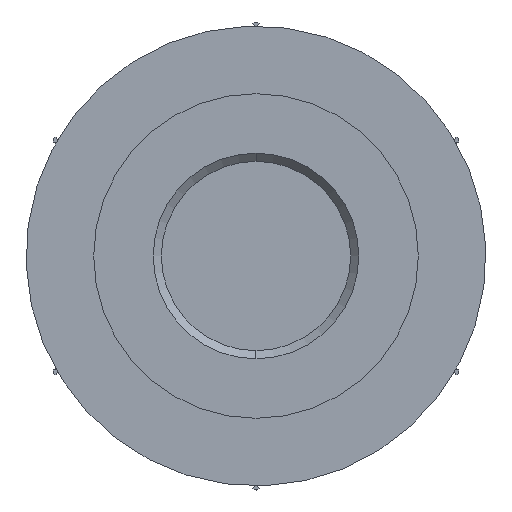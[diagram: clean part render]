
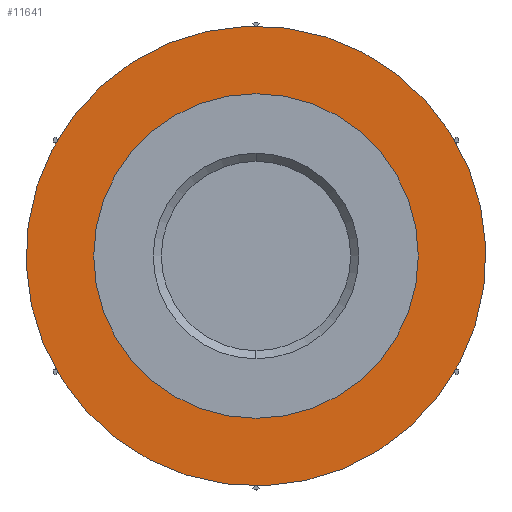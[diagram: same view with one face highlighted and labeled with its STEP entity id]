
A CAD part, front view. The second image highlights one B-rep face of the part: STEP entity #11641.
In plain terms, the highlighted planar face has unit normal (0, -1, 0).
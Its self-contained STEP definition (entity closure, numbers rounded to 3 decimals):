
#378 = CARTESIAN_POINT ( 'NONE',  ( 0., -1.2, 0. ) ) ;
#423 = CARTESIAN_POINT ( 'NONE',  ( 0., -1.2, 0. ) ) ;
#731 = DIRECTION ( 'NONE',  ( 0., 1., 0. ) ) ;
#741 = AXIS2_PLACEMENT_3D ( 'NONE', #423, #4500, #4488 ) ;
#1029 = VERTEX_POINT ( 'NONE', #5011 ) ;
#1205 = AXIS2_PLACEMENT_3D ( 'NONE', #8972, #731, #4707 ) ;
#1368 = EDGE_CURVE ( 'NONE', #1029, #2669, #12348, .T. ) ;
#1799 = EDGE_LOOP ( 'NONE', ( #3759, #5561 ) ) ;
#1952 = CARTESIAN_POINT ( 'NONE',  ( 0., -1.2, -6. ) ) ;
#2279 = ORIENTED_EDGE ( 'NONE', *, *, #1368, .F. ) ;
#2669 = VERTEX_POINT ( 'NONE', #3893 ) ;
#3211 = ORIENTED_EDGE ( 'NONE', *, *, #5558, .F. ) ;
#3759 = ORIENTED_EDGE ( 'NONE', *, *, #5231, .T. ) ;
#3891 = VERTEX_POINT ( 'NONE', #7868 ) ;
#3893 = CARTESIAN_POINT ( 'NONE',  ( 8.423, -1.2, -1.14 ) ) ;
#4078 = VERTEX_POINT ( 'NONE', #1952 ) ;
#4433 = AXIS2_PLACEMENT_3D ( 'NONE', #378, #4507, #10768 ) ;
#4488 = DIRECTION ( 'NONE',  ( 0.991, 0., -0.134 ) ) ;
#4500 = DIRECTION ( 'NONE',  ( 0., 1., 0. ) ) ;
#4507 = DIRECTION ( 'NONE',  ( 0., 1., 0. ) ) ;
#4707 = DIRECTION ( 'NONE',  ( 0., 0., 1. ) ) ;
#4849 = EDGE_CURVE ( 'NONE', #4078, #3891, #10835, .T. ) ;
#5011 = CARTESIAN_POINT ( 'NONE',  ( -8.423, -1.2, 1.14 ) ) ;
#5027 = DIRECTION ( 'NONE',  ( 0., 0., 1. ) ) ;
#5061 = FACE_BOUND ( 'NONE', #1799, .T. ) ;
#5231 = EDGE_CURVE ( 'NONE', #3891, #4078, #5695, .T. ) ;
#5411 = PLANE ( 'NONE',  #741 ) ;
#5558 = EDGE_CURVE ( 'NONE', #2669, #1029, #11437, .T. ) ;
#5561 = ORIENTED_EDGE ( 'NONE', *, *, #4849, .T. ) ;
#5695 = CIRCLE ( 'NONE', #1205, 6. ) ;
#7263 = DIRECTION ( 'NONE',  ( 0.991, 0., -0.134 ) ) ;
#7868 = CARTESIAN_POINT ( 'NONE',  ( 0., -1.2, 6. ) ) ;
#8489 = DIRECTION ( 'NONE',  ( 0., 1., 0. ) ) ;
#8834 = CARTESIAN_POINT ( 'NONE',  ( 0., -1.2, 0. ) ) ;
#8972 = CARTESIAN_POINT ( 'NONE',  ( 0., -1.2, 0. ) ) ;
#9096 = CARTESIAN_POINT ( 'NONE',  ( 0., -1.2, 0. ) ) ;
#9287 = DIRECTION ( 'NONE',  ( 0., 1., 0. ) ) ;
#9509 = EDGE_LOOP ( 'NONE', ( #2279, #3211 ) ) ;
#10768 = DIRECTION ( 'NONE',  ( 0.991, 0., -0.134 ) ) ;
#10835 = CIRCLE ( 'NONE', #13363, 6. ) ;
#11066 = AXIS2_PLACEMENT_3D ( 'NONE', #9096, #9287, #7263 ) ;
#11437 = CIRCLE ( 'NONE', #11066, 8.5 ) ;
#11641 = ADVANCED_FACE ( 'NONE', ( #5061, #12953 ), #5411, .F. ) ;
#12348 = CIRCLE ( 'NONE', #4433, 8.5 ) ;
#12953 = FACE_OUTER_BOUND ( 'NONE', #9509, .T. ) ;
#13363 = AXIS2_PLACEMENT_3D ( 'NONE', #8834, #8489, #5027 ) ;
